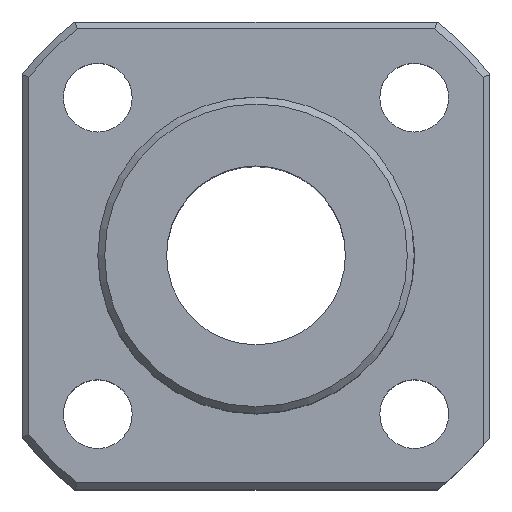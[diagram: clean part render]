
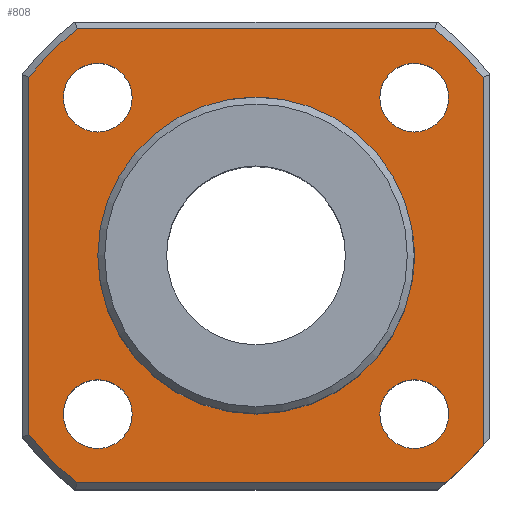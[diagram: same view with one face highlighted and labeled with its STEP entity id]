
A CAD part, top view. The second image highlights one B-rep face of the part: STEP entity #808.
In plain terms, the highlighted planar face has unit normal (0, 0, 1).
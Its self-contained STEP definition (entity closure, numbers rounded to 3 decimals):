
#531=CARTESIAN_POINT('',(13.784,-16.5,10.0));
#532=VERTEX_POINT('',#531);
#540=CARTESIAN_POINT('',(-12.99,-16.5,10.0));
#541=VERTEX_POINT('',#540);
#542=CARTESIAN_POINT('',(13.784,-16.5,10.0));
#543=DIRECTION('',(-1.0,0.0,0.0));
#544=VECTOR('',#543,26.774);
#545=LINE('',#542,#544);
#546=EDGE_CURVE('',#532,#541,#545,.T.);
#571=CARTESIAN_POINT('',(-16.5,-12.99,10.0));
#572=VERTEX_POINT('',#571);
#573=CARTESIAN_POINT('',(0.0,0.0,10.0));
#574=DIRECTION('',(0.0,0.0,-1.0));
#575=DIRECTION('',(-1.0,0.0,0.0));
#576=AXIS2_PLACEMENT_3D('',#573,#574,#575);
#577=CIRCLE('',#576,21.);
#578=EDGE_CURVE('',#541,#572,#577,.T.);
#603=CARTESIAN_POINT('',(-16.5,12.99,10.0));
#604=VERTEX_POINT('',#603);
#605=CARTESIAN_POINT('',(-16.5,-12.99,10.0));
#606=DIRECTION('',(0.0,1.0,0.0));
#607=VECTOR('',#606,25.981);
#608=LINE('',#605,#607);
#609=EDGE_CURVE('',#572,#604,#608,.T.);
#628=CARTESIAN_POINT('',(-12.99,16.5,10.0));
#629=VERTEX_POINT('',#628);
#630=CARTESIAN_POINT('',(0.0,0.0,10.0));
#631=DIRECTION('',(0.0,0.0,-1.0));
#632=DIRECTION('',(-1.0,0.0,0.0));
#633=AXIS2_PLACEMENT_3D('',#630,#631,#632);
#634=CIRCLE('',#633,21.);
#635=EDGE_CURVE('',#604,#629,#634,.T.);
#654=CARTESIAN_POINT('',(12.99,16.5,10.0));
#655=VERTEX_POINT('',#654);
#656=CARTESIAN_POINT('',(-12.99,16.5,10.0));
#657=DIRECTION('',(1.0,0.0,0.0));
#658=VECTOR('',#657,25.981);
#659=LINE('',#656,#658);
#660=EDGE_CURVE('',#629,#655,#659,.T.);
#679=CARTESIAN_POINT('',(16.5,12.99,10.0));
#680=VERTEX_POINT('',#679);
#681=CARTESIAN_POINT('',(0.0,0.0,10.0));
#682=DIRECTION('',(0.0,0.0,-1.0));
#683=DIRECTION('',(1.0,0.0,0.0));
#684=AXIS2_PLACEMENT_3D('',#681,#682,#683);
#685=CIRCLE('',#684,21.);
#686=EDGE_CURVE('',#655,#680,#685,.T.);
#705=CARTESIAN_POINT('',(16.5,-13.784,10.0));
#706=VERTEX_POINT('',#705);
#723=CARTESIAN_POINT('',(16.5,12.99,10.0));
#724=DIRECTION('',(0.0,-1.0,0.0));
#725=VECTOR('',#724,26.774);
#726=LINE('',#723,#725);
#727=EDGE_CURVE('',#680,#706,#726,.T.);
#732=CARTESIAN_POINT('',(0.,0.,10.0));
#733=DIRECTION('',(0.0,0.0,1.0));
#734=DIRECTION('',(1.0,0.0,0.0));
#735=AXIS2_PLACEMENT_3D('',#732,#733,#734);
#736=PLANE('',#735);
#737=ORIENTED_EDGE('',*,*,#727,.F.);
#738=ORIENTED_EDGE('',*,*,#686,.F.);
#739=ORIENTED_EDGE('',*,*,#660,.F.);
#740=ORIENTED_EDGE('',*,*,#635,.F.);
#741=ORIENTED_EDGE('',*,*,#609,.F.);
#742=ORIENTED_EDGE('',*,*,#578,.F.);
#743=ORIENTED_EDGE('',*,*,#546,.F.);
#744=CARTESIAN_POINT('',(0.0,0.0,10.0));
#745=DIRECTION('',(0.0,0.0,-1.0));
#746=DIRECTION('',(1.0,0.0,0.0));
#747=AXIS2_PLACEMENT_3D('',#744,#745,#746);
#748=CIRCLE('',#747,21.5);
#749=EDGE_CURVE('',#706,#532,#748,.T.);
#750=ORIENTED_EDGE('',*,*,#749,.F.);
#751=EDGE_LOOP('',(#737,#738,#739,#740,#741,#742,#743,#750));
#752=FACE_OUTER_BOUND('',#751,.T.);
#753=CARTESIAN_POINT('',(11.5,0.,10.0));
#754=VERTEX_POINT('',#753);
#755=CARTESIAN_POINT('',(0.0,0.0,10.0));
#756=DIRECTION('',(0.0,0.0,-1.0));
#757=DIRECTION('',(-1.0,0.0,0.0));
#758=AXIS2_PLACEMENT_3D('',#755,#756,#757);
#759=CIRCLE('',#758,11.5);
#760=EDGE_CURVE('',#754,#754,#759,.T.);
#761=ORIENTED_EDGE('',*,*,#760,.T.);
#762=EDGE_LOOP('',(#761));
#763=FACE_BOUND('',#762,.T.);
#764=CARTESIAN_POINT('',(-14.,11.5,10.0));
#765=VERTEX_POINT('',#764);
#766=CARTESIAN_POINT('',(-11.5,11.5,10.0));
#767=DIRECTION('',(0.0,0.0,-1.0));
#768=DIRECTION('',(1.0,0.0,0.0));
#769=AXIS2_PLACEMENT_3D('',#766,#767,#768);
#770=CIRCLE('',#769,2.5);
#771=EDGE_CURVE('',#765,#765,#770,.T.);
#772=ORIENTED_EDGE('',*,*,#771,.T.);
#773=EDGE_LOOP('',(#772));
#774=FACE_BOUND('',#773,.T.);
#775=CARTESIAN_POINT('',(9.,11.5,10.0));
#776=VERTEX_POINT('',#775);
#777=CARTESIAN_POINT('',(11.5,11.5,10.0));
#778=DIRECTION('',(0.0,0.0,-1.0));
#779=DIRECTION('',(1.0,0.0,0.0));
#780=AXIS2_PLACEMENT_3D('',#777,#778,#779);
#781=CIRCLE('',#780,2.5);
#782=EDGE_CURVE('',#776,#776,#781,.T.);
#783=ORIENTED_EDGE('',*,*,#782,.T.);
#784=EDGE_LOOP('',(#783));
#785=FACE_BOUND('',#784,.T.);
#786=CARTESIAN_POINT('',(-14.,-11.5,10.0));
#787=VERTEX_POINT('',#786);
#788=CARTESIAN_POINT('',(-11.5,-11.5,10.0));
#789=DIRECTION('',(0.0,0.0,-1.0));
#790=DIRECTION('',(1.0,0.0,0.0));
#791=AXIS2_PLACEMENT_3D('',#788,#789,#790);
#792=CIRCLE('',#791,2.5);
#793=EDGE_CURVE('',#787,#787,#792,.T.);
#794=ORIENTED_EDGE('',*,*,#793,.T.);
#795=EDGE_LOOP('',(#794));
#796=FACE_BOUND('',#795,.T.);
#797=CARTESIAN_POINT('',(9.,-11.5,10.0));
#798=VERTEX_POINT('',#797);
#799=CARTESIAN_POINT('',(11.5,-11.5,10.0));
#800=DIRECTION('',(0.0,0.0,-1.0));
#801=DIRECTION('',(1.0,0.0,0.0));
#802=AXIS2_PLACEMENT_3D('',#799,#800,#801);
#803=CIRCLE('',#802,2.5);
#804=EDGE_CURVE('',#798,#798,#803,.T.);
#805=ORIENTED_EDGE('',*,*,#804,.T.);
#806=EDGE_LOOP('',(#805));
#807=FACE_BOUND('',#806,.T.);
#808=ADVANCED_FACE('',(#752,#763,#774,#785,#796,#807),#736,.T.);
